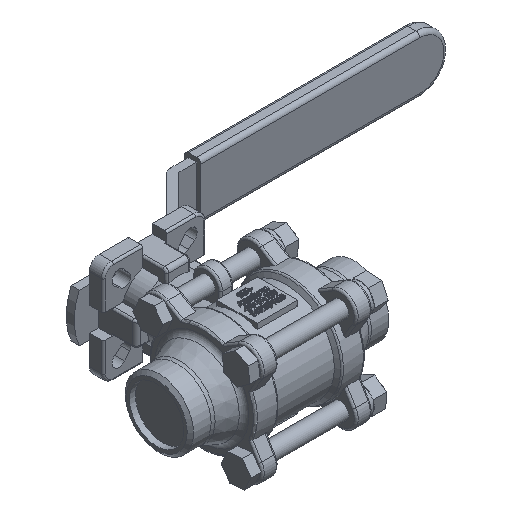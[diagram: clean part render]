
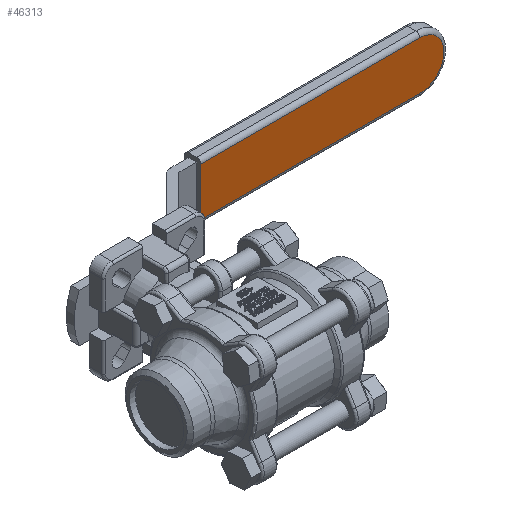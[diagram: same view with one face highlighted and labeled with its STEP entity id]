
A CAD part, isometric view. The second image highlights one B-rep face of the part: STEP entity #46313.
In plain terms, the highlighted planar face has unit normal (0, -1, 0).
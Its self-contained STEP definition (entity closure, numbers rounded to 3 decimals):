
#46196=CARTESIAN_POINT('',(57.,85.,12.));
#46197=VERTEX_POINT('',#46196);
#46205=CARTESIAN_POINT('',(166.,85.,12.));
#46206=VERTEX_POINT('',#46205);
#46207=CARTESIAN_POINT('',(57.,85.,12.));
#46208=DIRECTION('',(1.0,0.0,0.0));
#46209=VECTOR('',#46208,109.);
#46210=LINE('',#46207,#46209);
#46211=EDGE_CURVE('',#46197,#46206,#46210,.T.);
#46236=CARTESIAN_POINT('',(166.,85.,-12.));
#46237=VERTEX_POINT('',#46236);
#46255=CARTESIAN_POINT('',(166.,85.,0.));
#46256=DIRECTION('',(0.0,1.0,0.0));
#46257=DIRECTION('',(1.0,0.0,0.0));
#46258=AXIS2_PLACEMENT_3D('',#46255,#46256,#46257);
#46259=CIRCLE('',#46258,12.);
#46260=EDGE_CURVE('',#46206,#46237,#46259,.T.);
#46270=CARTESIAN_POINT('',(57.,85.,-12.));
#46271=VERTEX_POINT('',#46270);
#46288=CARTESIAN_POINT('',(166.,85.,-12.));
#46289=DIRECTION('',(-1.0,0.0,0.0));
#46290=VECTOR('',#46289,109.);
#46291=LINE('',#46288,#46290);
#46292=EDGE_CURVE('',#46237,#46271,#46291,.T.);
#46297=CARTESIAN_POINT('',(57.,85.,-14.));
#46298=DIRECTION('',(0.0,-1.0,0.0));
#46299=DIRECTION('',(0.0,0.0,-1.0));
#46300=AXIS2_PLACEMENT_3D('',#46297,#46298,#46299);
#46301=PLANE('',#46300);
#46302=ORIENTED_EDGE('',*,*,#46292,.F.);
#46303=ORIENTED_EDGE('',*,*,#46260,.F.);
#46304=ORIENTED_EDGE('',*,*,#46211,.F.);
#46305=CARTESIAN_POINT('',(57.,85.,-12.));
#46306=DIRECTION('',(0.0,0.0,1.0));
#46307=VECTOR('',#46306,24.);
#46308=LINE('',#46305,#46307);
#46309=EDGE_CURVE('',#46271,#46197,#46308,.T.);
#46310=ORIENTED_EDGE('',*,*,#46309,.F.);
#46311=EDGE_LOOP('',(#46302,#46303,#46304,#46310));
#46312=FACE_OUTER_BOUND('',#46311,.T.);
#46313=ADVANCED_FACE('',(#46312),#46301,.T.);
